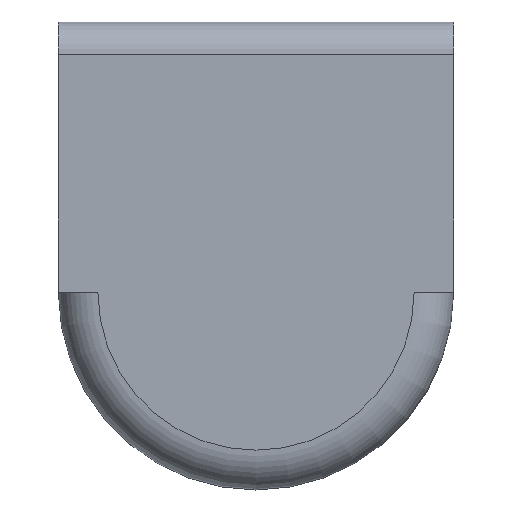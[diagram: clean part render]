
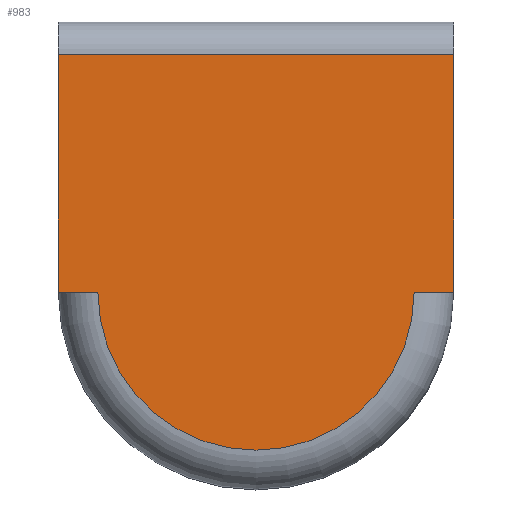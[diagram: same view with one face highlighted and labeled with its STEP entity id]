
A CAD part, top view. The second image highlights one B-rep face of the part: STEP entity #983.
In plain terms, the highlighted planar face has unit normal (0, 0, 1).
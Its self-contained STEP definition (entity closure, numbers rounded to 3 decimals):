
#90 = PLANE('',#91);
#91 = AXIS2_PLACEMENT_3D('',#92,#93,#94);
#92 = CARTESIAN_POINT('',(15.,-4.267,-3.926));
#93 = DIRECTION('',(1.,0.,0.));
#94 = DIRECTION('',(0.,1.,0.));
#144 = PLANE('',#145);
#145 = AXIS2_PLACEMENT_3D('',#146,#147,#148);
#146 = CARTESIAN_POINT('',(-15.,-4.267,-3.926));
#147 = DIRECTION('',(1.,0.,0.));
#148 = DIRECTION('',(0.,1.,0.));
#394 = VERTEX_POINT('',#395);
#395 = CARTESIAN_POINT('',(-15.,-0.5,2.));
#410 = CYLINDRICAL_SURFACE('',#411,2.5);
#411 = AXIS2_PLACEMENT_3D('',#412,#413,#414);
#412 = CARTESIAN_POINT('',(-15.,-0.5,-0.5));
#413 = DIRECTION('',(-1.,-0.,0.));
#414 = DIRECTION('',(0.,1.,0.));
#422 = EDGE_CURVE('',#423,#394,#425,.T.);
#423 = VERTEX_POINT('',#424);
#424 = CARTESIAN_POINT('',(-15.,-18.5,2.));
#425 = SURFACE_CURVE('',#426,(#430,#437),.PCURVE_S1.);
#426 = LINE('',#427,#428);
#427 = CARTESIAN_POINT('',(-15.,-18.5,2.));
#428 = VECTOR('',#429,1.);
#429 = DIRECTION('',(0.,1.,0.));
#430 = PCURVE('',#144,#431);
#431 = DEFINITIONAL_REPRESENTATION('',(#432),#436);
#432 = LINE('',#433,#434);
#433 = CARTESIAN_POINT('',(-14.233,5.926));
#434 = VECTOR('',#435,1.);
#435 = DIRECTION('',(1.,0.));
#436 = ( GEOMETRIC_REPRESENTATION_CONTEXT(2) 
PARAMETRIC_REPRESENTATION_CONTEXT() REPRESENTATION_CONTEXT('2D SPACE',''
  ) );
#437 = PCURVE('',#438,#443);
#438 = PLANE('',#439);
#439 = AXIS2_PLACEMENT_3D('',#440,#441,#442);
#440 = CARTESIAN_POINT('',(-15.,-18.5,2.));
#441 = DIRECTION('',(0.,0.,1.));
#442 = DIRECTION('',(0.,1.,0.));
#443 = DEFINITIONAL_REPRESENTATION('',(#444),#448);
#444 = LINE('',#445,#446);
#445 = CARTESIAN_POINT('',(0.,0.));
#446 = VECTOR('',#447,1.);
#447 = DIRECTION('',(1.,0.));
#448 = ( GEOMETRIC_REPRESENTATION_CONTEXT(2) 
PARAMETRIC_REPRESENTATION_CONTEXT() REPRESENTATION_CONTEXT('2D SPACE',''
  ) );
#466 = PLANE('',#467);
#467 = AXIS2_PLACEMENT_3D('',#468,#469,#470);
#468 = CARTESIAN_POINT('',(-15.,-18.5,0.));
#469 = DIRECTION('',(0.,-1.,0.));
#470 = DIRECTION('',(0.,0.,1.));
#612 = VERTEX_POINT('',#613);
#613 = CARTESIAN_POINT('',(15.,-0.5,2.));
#635 = EDGE_CURVE('',#636,#612,#638,.T.);
#636 = VERTEX_POINT('',#637);
#637 = CARTESIAN_POINT('',(15.,-18.5,2.));
#638 = SURFACE_CURVE('',#639,(#643,#650),.PCURVE_S1.);
#639 = LINE('',#640,#641);
#640 = CARTESIAN_POINT('',(15.,-18.5,2.));
#641 = VECTOR('',#642,1.);
#642 = DIRECTION('',(0.,1.,0.));
#643 = PCURVE('',#90,#644);
#644 = DEFINITIONAL_REPRESENTATION('',(#645),#649);
#645 = LINE('',#646,#647);
#646 = CARTESIAN_POINT('',(-14.233,5.926));
#647 = VECTOR('',#648,1.);
#648 = DIRECTION('',(1.,0.));
#649 = ( GEOMETRIC_REPRESENTATION_CONTEXT(2) 
PARAMETRIC_REPRESENTATION_CONTEXT() REPRESENTATION_CONTEXT('2D SPACE',''
  ) );
#650 = PCURVE('',#438,#651);
#651 = DEFINITIONAL_REPRESENTATION('',(#652),#656);
#652 = LINE('',#653,#654);
#653 = CARTESIAN_POINT('',(0.,-30.));
#654 = VECTOR('',#655,1.);
#655 = DIRECTION('',(1.,0.));
#656 = ( GEOMETRIC_REPRESENTATION_CONTEXT(2) 
PARAMETRIC_REPRESENTATION_CONTEXT() REPRESENTATION_CONTEXT('2D SPACE',''
  ) );
#674 = PLANE('',#675);
#675 = AXIS2_PLACEMENT_3D('',#676,#677,#678);
#676 = CARTESIAN_POINT('',(-15.,-18.5,0.));
#677 = DIRECTION('',(0.,-1.,0.));
#678 = DIRECTION('',(0.,0.,1.));
#962 = EDGE_CURVE('',#394,#612,#963,.T.);
#963 = SURFACE_CURVE('',#964,(#968,#975),.PCURVE_S1.);
#964 = LINE('',#965,#966);
#965 = CARTESIAN_POINT('',(-15.,-0.5,2.));
#966 = VECTOR('',#967,1.);
#967 = DIRECTION('',(1.,0.,0.));
#968 = PCURVE('',#410,#969);
#969 = DEFINITIONAL_REPRESENTATION('',(#970),#974);
#970 = LINE('',#971,#972);
#971 = CARTESIAN_POINT('',(-1.571,0.));
#972 = VECTOR('',#973,1.);
#973 = DIRECTION('',(-0.,-1.));
#974 = ( GEOMETRIC_REPRESENTATION_CONTEXT(2) 
PARAMETRIC_REPRESENTATION_CONTEXT() REPRESENTATION_CONTEXT('2D SPACE',''
  ) );
#975 = PCURVE('',#438,#976);
#976 = DEFINITIONAL_REPRESENTATION('',(#977),#981);
#977 = LINE('',#978,#979);
#978 = CARTESIAN_POINT('',(18.,0.));
#979 = VECTOR('',#980,1.);
#980 = DIRECTION('',(0.,-1.));
#981 = ( GEOMETRIC_REPRESENTATION_CONTEXT(2) 
PARAMETRIC_REPRESENTATION_CONTEXT() REPRESENTATION_CONTEXT('2D SPACE',''
  ) );
#983 = ADVANCED_FACE('',(#984),#438,.T.);
#984 = FACE_BOUND('',#985,.T.);
#985 = EDGE_LOOP('',(#986,#1009,#1038,#1059,#1060,#1061));
#986 = ORIENTED_EDGE('',*,*,#987,.T.);
#987 = EDGE_CURVE('',#423,#988,#990,.T.);
#988 = VERTEX_POINT('',#989);
#989 = CARTESIAN_POINT('',(-12.,-18.5,2.));
#990 = SURFACE_CURVE('',#991,(#995,#1002),.PCURVE_S1.);
#991 = LINE('',#992,#993);
#992 = CARTESIAN_POINT('',(-15.,-18.5,2.));
#993 = VECTOR('',#994,1.);
#994 = DIRECTION('',(1.,0.,0.));
#995 = PCURVE('',#438,#996);
#996 = DEFINITIONAL_REPRESENTATION('',(#997),#1001);
#997 = LINE('',#998,#999);
#998 = CARTESIAN_POINT('',(0.,0.));
#999 = VECTOR('',#1000,1.);
#1000 = DIRECTION('',(0.,-1.));
#1001 = ( GEOMETRIC_REPRESENTATION_CONTEXT(2) 
PARAMETRIC_REPRESENTATION_CONTEXT() REPRESENTATION_CONTEXT('2D SPACE',''
  ) );
#1002 = PCURVE('',#466,#1003);
#1003 = DEFINITIONAL_REPRESENTATION('',(#1004),#1008);
#1004 = LINE('',#1005,#1006);
#1005 = CARTESIAN_POINT('',(2.,0.));
#1006 = VECTOR('',#1007,1.);
#1007 = DIRECTION('',(0.,-1.));
#1008 = ( GEOMETRIC_REPRESENTATION_CONTEXT(2) 
PARAMETRIC_REPRESENTATION_CONTEXT() REPRESENTATION_CONTEXT('2D SPACE',''
  ) );
#1009 = ORIENTED_EDGE('',*,*,#1010,.T.);
#1010 = EDGE_CURVE('',#988,#1011,#1013,.T.);
#1011 = VERTEX_POINT('',#1012);
#1012 = CARTESIAN_POINT('',(12.,-18.5,2.));
#1013 = SURFACE_CURVE('',#1014,(#1019,#1026),.PCURVE_S1.);
#1014 = CIRCLE('',#1015,12.);
#1015 = AXIS2_PLACEMENT_3D('',#1016,#1017,#1018);
#1016 = CARTESIAN_POINT('',(0.,-18.5,2.));
#1017 = DIRECTION('',(0.,0.,1.));
#1018 = DIRECTION('',(-1.,0.,0.));
#1019 = PCURVE('',#438,#1020);
#1020 = DEFINITIONAL_REPRESENTATION('',(#1021),#1025);
#1021 = CIRCLE('',#1022,12.);
#1022 = AXIS2_PLACEMENT_2D('',#1023,#1024);
#1023 = CARTESIAN_POINT('',(0.,-15.));
#1024 = DIRECTION('',(0.,1.));
#1025 = ( GEOMETRIC_REPRESENTATION_CONTEXT(2) 
PARAMETRIC_REPRESENTATION_CONTEXT() REPRESENTATION_CONTEXT('2D SPACE',''
  ) );
#1026 = PCURVE('',#1027,#1032);
#1027 = TOROIDAL_SURFACE('',#1028,12.,3.);
#1028 = AXIS2_PLACEMENT_3D('',#1029,#1030,#1031);
#1029 = CARTESIAN_POINT('',(0.,-18.5,-1.));
#1030 = DIRECTION('',(0.,0.,1.));
#1031 = DIRECTION('',(-1.,0.,0.));
#1032 = DEFINITIONAL_REPRESENTATION('',(#1033),#1037);
#1033 = LINE('',#1034,#1035);
#1034 = CARTESIAN_POINT('',(0.,1.571));
#1035 = VECTOR('',#1036,1.);
#1036 = DIRECTION('',(1.,0.));
#1037 = ( GEOMETRIC_REPRESENTATION_CONTEXT(2) 
PARAMETRIC_REPRESENTATION_CONTEXT() REPRESENTATION_CONTEXT('2D SPACE',''
  ) );
#1038 = ORIENTED_EDGE('',*,*,#1039,.T.);
#1039 = EDGE_CURVE('',#1011,#636,#1040,.T.);
#1040 = SURFACE_CURVE('',#1041,(#1045,#1052),.PCURVE_S1.);
#1041 = LINE('',#1042,#1043);
#1042 = CARTESIAN_POINT('',(-15.,-18.5,2.));
#1043 = VECTOR('',#1044,1.);
#1044 = DIRECTION('',(1.,0.,0.));
#1045 = PCURVE('',#438,#1046);
#1046 = DEFINITIONAL_REPRESENTATION('',(#1047),#1051);
#1047 = LINE('',#1048,#1049);
#1048 = CARTESIAN_POINT('',(0.,0.));
#1049 = VECTOR('',#1050,1.);
#1050 = DIRECTION('',(0.,-1.));
#1051 = ( GEOMETRIC_REPRESENTATION_CONTEXT(2) 
PARAMETRIC_REPRESENTATION_CONTEXT() REPRESENTATION_CONTEXT('2D SPACE',''
  ) );
#1052 = PCURVE('',#674,#1053);
#1053 = DEFINITIONAL_REPRESENTATION('',(#1054),#1058);
#1054 = LINE('',#1055,#1056);
#1055 = CARTESIAN_POINT('',(2.,0.));
#1056 = VECTOR('',#1057,1.);
#1057 = DIRECTION('',(0.,-1.));
#1058 = ( GEOMETRIC_REPRESENTATION_CONTEXT(2) 
PARAMETRIC_REPRESENTATION_CONTEXT() REPRESENTATION_CONTEXT('2D SPACE',''
  ) );
#1059 = ORIENTED_EDGE('',*,*,#635,.T.);
#1060 = ORIENTED_EDGE('',*,*,#962,.F.);
#1061 = ORIENTED_EDGE('',*,*,#422,.F.);
